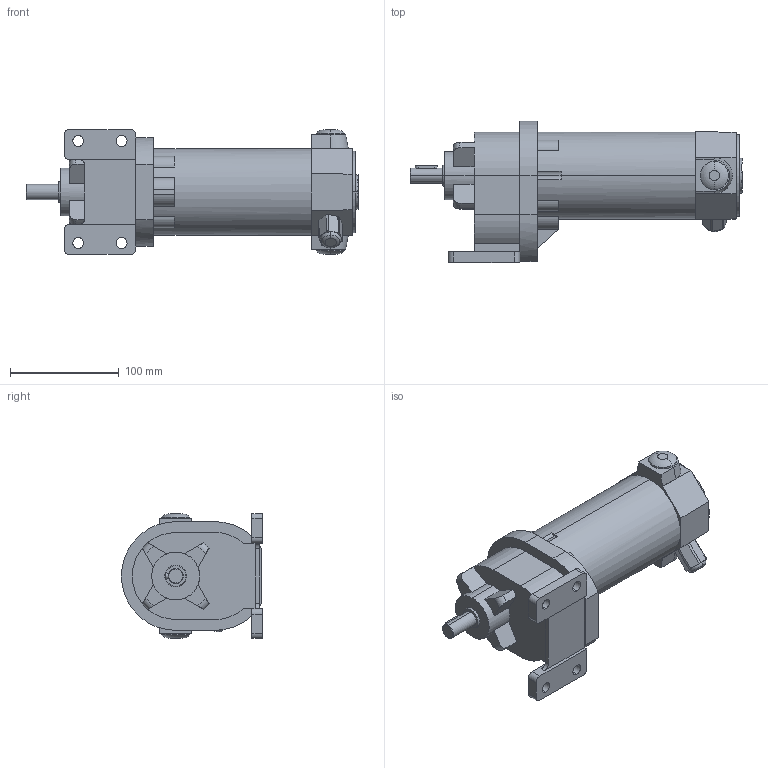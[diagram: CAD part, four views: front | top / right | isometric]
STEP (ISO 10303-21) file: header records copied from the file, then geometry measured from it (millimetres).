
FILE_DESCRIPTION(('OneSpaceDesigner STEP Export'),'2;1');
FILE_NAME('EPG13_S30.stp','2008-07-17T 9:44:57',(''),(''),'OneSpace Designer STEP processor (Jan. 2003) for AP214(CD)(Solid Model)','OneSpace Designer 12.01D 09-Jul-2004 (C) CoCreate Software GmbH','');
FILE_SCHEMA(('AUTOMOTIVE_DESIGN_CC2 {1 2 10303 214 -1 1 5 1}'));
Length unit declared in the file: millimetre
Products named in the file (2): EPG13_S30
Assembly tree (1 placements, depth 2):
  EPG13_S30
    EPG13_S30
Bounding box: 305.5 x 130 x 115 mm (x, y, z)
Volume: 1608966.5 mm3; surface area: 114378.5 mm2
Topology: 1 solids, 1 shells, 159 faces, 423 edges, 277 vertices
Faces by surface type: plane 83, cylinder 58, torus 12, cone 4, bspline 2
Entity records: 7851 total; most frequent: CARTESIAN_POINT 4023, ORIENTED_EDGE 846, DIRECTION 728, EDGE_CURVE 423, VERTEX_POINT 277, AXIS2_PLACEMENT_3D 249, VECTOR 230, LINE 230
